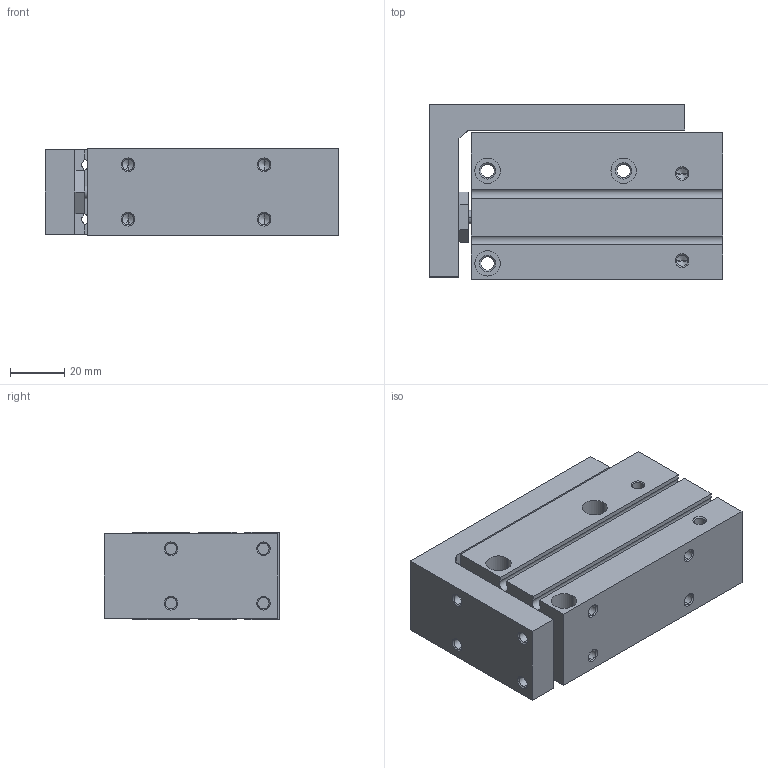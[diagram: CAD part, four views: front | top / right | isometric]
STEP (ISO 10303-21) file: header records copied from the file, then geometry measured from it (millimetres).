
FILE_DESCRIPTION (( 'STEP AP203' ), '1' );
FILE_NAME ('CXH20-40.STEP', '2020-04-16T18:30:31', ( '' ), ( '' ), 'SwSTEP 2.0', 'SolidWorks 2019', '' );
FILE_SCHEMA (( 'CONFIG_CONTROL_DESIGN' ));
Length unit declared in the file: millimetre
Products named in the file (1): CXH20-40
Bounding box: 108 x 64.5 x 32 mm (x, y, z)
Volume: 181707 mm3; surface area: 46385.5 mm2
Topology: 2 solids, 2 shells, 218 faces, 519 edges, 300 vertices
Faces by surface type: cone 94, cylinder 80, plane 44
Entity records: 6288 total; most frequent: DIRECTION 1147, CARTESIAN_POINT 1120, ORIENTED_EDGE 982, EDGE_CURVE 491, AXIS2_PLACEMENT_3D 443, VERTEX_POINT 300, EDGE_LOOP 267, LINE 261
